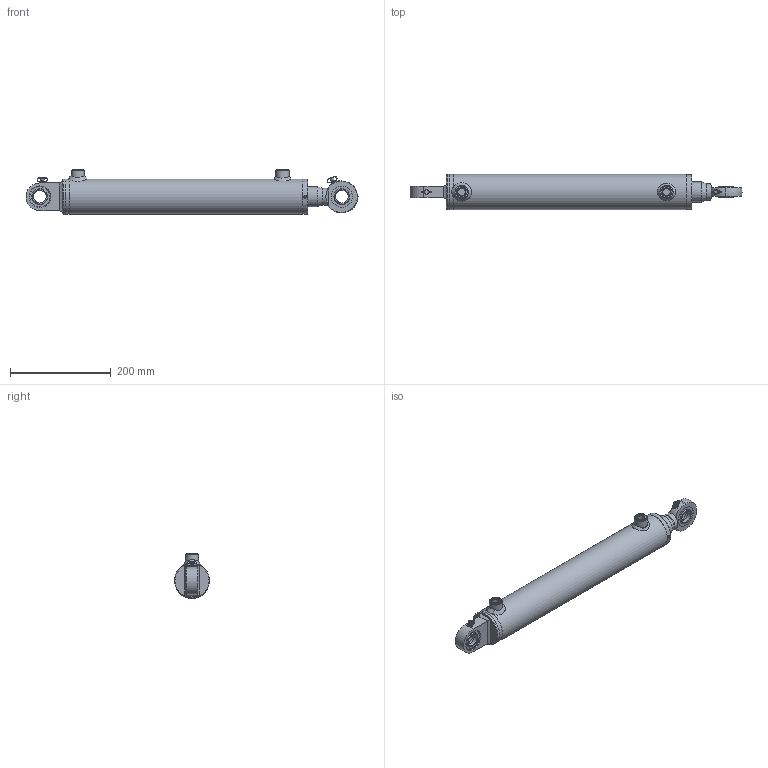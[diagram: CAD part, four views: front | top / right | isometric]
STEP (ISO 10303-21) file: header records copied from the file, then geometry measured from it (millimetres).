
FILE_DESCRIPTION( ( 'Unknown' ), '1' );
FILE_NAME( 'E:/LIBRERIA_3d/CILINDRI/HMB/HMB3400350.stp', 'Unknown', ( 'Unknown' ), ( 'Unknown' ), 'PSStep 17.0.49', 'Unknown', ' ' );
FILE_SCHEMA( ( 'AUTOMOTIVE_DESIGN { 1 0 10303 214 1 1 1 1 }' ) );
Length unit declared in the file: millimetre
Products named in the file (37): CSTSF025C0; tsc25c_CORPO; AN00006001; STL3500350-oa7; Saldatura d'angolo 1-oa5; FTM3500350-oa6; CBSC220600; CG07006040; CT00060027; CSTSF025N0; An00006001; CSTS025N_CORPO; CSAI002042; CSAI002042-oa0; CSTS025C00; cge0250000; APGR013000; CSTS025N00; CGE0250000; HM03400350; Saldatura con preparazione 1-oa3; Saldatura d'angolo 1-oa4; CF00060070; CBS0600000; APG0600000; CDB0002720; SBL4040350; Assem1; Saldatura d'angolo 1-oa1; Saldatura d'angolo 2-oa2
Assembly tree (32 placements, depth 4):
  Saldatura d'angolo 1-oa5
  Saldatura d'angolo 1-oa5
  Saldatura d'angolo 1-oa4
  Saldatura d'angolo 1-oa4
  Assem1
    APGR013000  x2
    CSTS025N00
      CGE0250000
      APGR013000
      CSTSF025N0
        An00006001
        CSTS025N_CORPO
        CSAI002042
        CSAI002042-oa0
    CSTS025C00
      cge0250000
      APGR013000
      CSTSF025C0
        tsc25c_CORPO
        AN00006001
    HM03400350
      Saldatura con preparazione 1-oa3
      Saldatura con preparazione 1-oa3
      CF00060070
      CBS0600000
      APG0600000  x2
      CDB0002720
      SBL4040350
      CG07006040
        CG07006040
      CT00060027
        CT00060027
      STL3500350-oa7
        FTM3500350-oa6
        CBSC220600
Bounding box: 659.5 x 70 x 89 mm (x, y, z)
Volume: 1422187.2 mm3; surface area: 388482.8 mm2
Topology: 32 solids, 32 shells, 390 faces, 803 edges, 508 vertices
Faces by surface type: plane 156, cylinder 101, torus 46, cone 44, bspline 36, sphere 7
Full cylindrical faces by diameter (mm): 2 x4, 4 x1, 4.25 x1, 5 x12, 6 x4, 7 x2, 8 x4, 9 x4, 14.95 x2, 16 x2, 16.6 x2, 22 x2, 25 x4, 26 x2, 26.4 x1, 27 x5, 33.2 x1, 33.5 x3, 40 x6, 41 x1, 42 x9, 43 x1, 44 x1, 48 x1, 48.6 x1, 55 x1, 55.39 x2, 58.65 x2, 59.9 x1, 60 x1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
Entity records: 14638 total; most frequent: CARTESIAN_POINT 5678, DIRECTION 1360, ORIENTED_EDGE 882, AXIS2_PLACEMENT_3D 617, EDGE_LOOP 592, FACE_OUTER_BOUND 468, EDGE_CURVE 441, VERTEX_POINT 377
